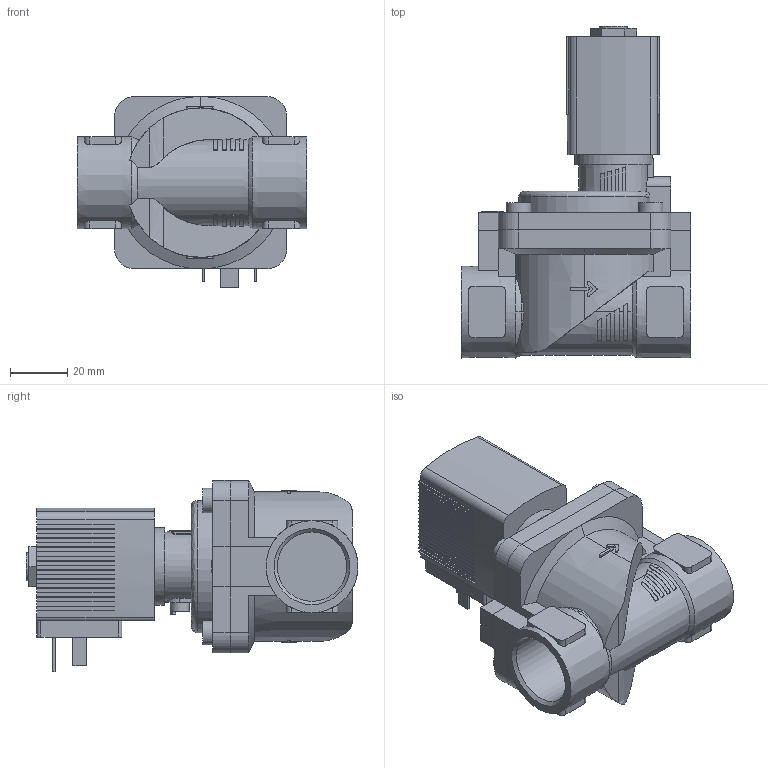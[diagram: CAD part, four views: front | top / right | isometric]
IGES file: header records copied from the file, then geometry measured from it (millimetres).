
Start section: Data from Parasolid IGES Translator 26.0.171, Copyright(c) 2006 Siemens PLM Software. All Rights Reserved.
Global section: file name: 6281-293747-2_2-Way_Solenoid_Valve__Servo-assisted__General_Purpose.igs; native system: By Siemens PLM Incorporated; preprocessor: XPlus GENERIC/IGES 26.0.171; author: Noname; organization: Noname; date: 20240527.091136; units: millimetre
Bounding box: 80 x 115.5 x 66.5 mm (x, y, z)
Surface area: 43274.3 mm2 (no closed solid volume)
Topology: 0 solids, 0 shells, 569 faces, 3180 edges, 3174 vertices
Faces by surface type: extrusion 442, revolution 127
